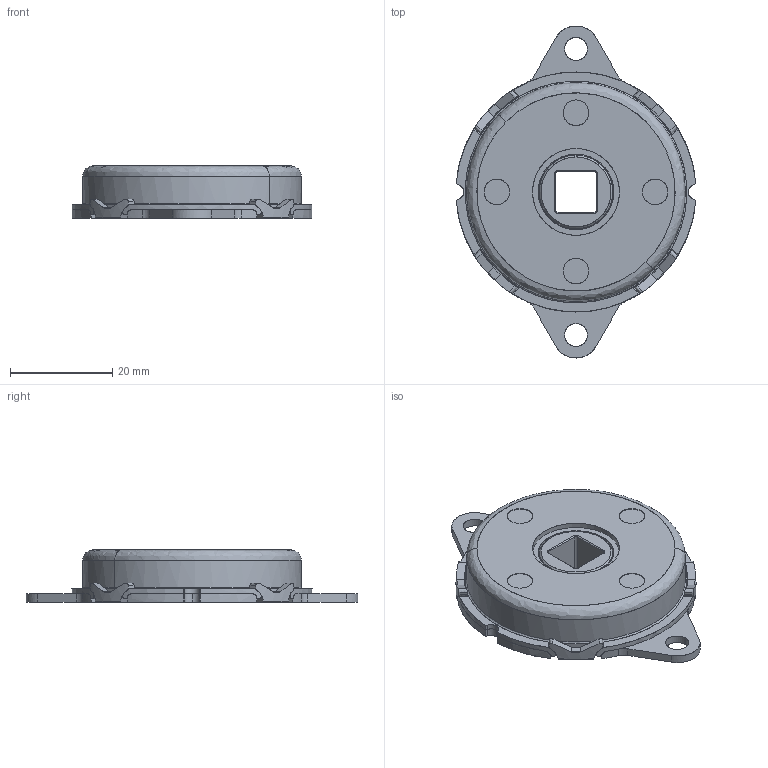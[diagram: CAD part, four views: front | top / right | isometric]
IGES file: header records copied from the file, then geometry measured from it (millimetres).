
Start section: SolidWorks IGES file using analytic representation for surfaces
Bounding box: 46.89 x 65 x 10.2 mm (x, y, z)
Surface area: 8167.1 mm2 (no closed solid volume)
Topology: 0 solids, 0 shells, 259 faces, 3312 edges, 3295 vertices
Faces by surface type: bspline 198, revolution 61
